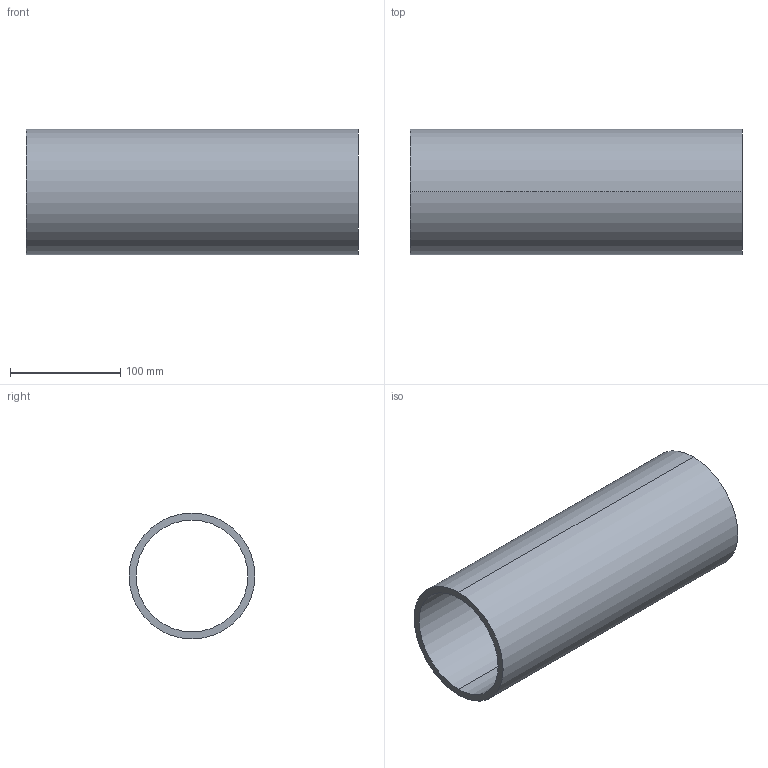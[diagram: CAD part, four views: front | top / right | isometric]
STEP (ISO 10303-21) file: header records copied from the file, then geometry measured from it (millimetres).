
FILE_DESCRIPTION (( 'STEP AP214' ), '1' );
FILE_NAME ('GE-25500.STEP', '2024-12-20T15:27:24', ( '' ), ( '' ), 'SwSTEP 2.0', 'SolidWorks 2022', '' );
FILE_SCHEMA (( 'AUTOMOTIVE_DESIGN' ));
Length unit declared in the file: inch
Products named in the file (1): GE-25500
Bounding box: 301.62 x 114.3 x 114.3 mm (x, y, z)
Volume: 651996.2 mm3; surface area: 208858.2 mm2
Topology: 1 solids, 1 shells, 6 faces, 12 edges, 8 vertices
Faces by surface type: cylinder 4, plane 2
Entity records: 208 total; most frequent: DIRECTION 34, CARTESIAN_POINT 27, ORIENTED_EDGE 24, AXIS2_PLACEMENT_3D 15, EDGE_CURVE 12, CIRCLE 8, EDGE_LOOP 8, VERTEX_POINT 8
